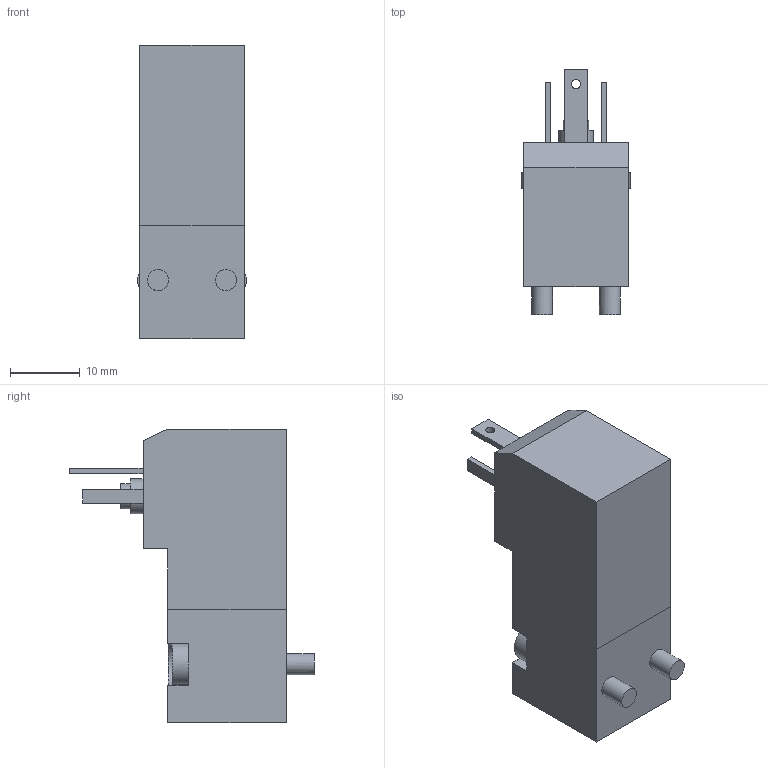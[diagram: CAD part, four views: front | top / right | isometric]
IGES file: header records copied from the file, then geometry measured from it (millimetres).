
Global section: file name: N3##_1#-2; native system: Autodesk Inventor 2014; preprocessor: unknown; author: A. Manieri; organization: Pneumax S.p.A.; date: 20160908.141659; units: millimetre
Bounding box: 15.5 x 35 x 42 mm (x, y, z)
Volume: 11603.2 mm3; surface area: 3933.5 mm2
Topology: 1 solids, 1 shells, 90 faces, 228 edges, 150 vertices
Faces by surface type: bspline 90
